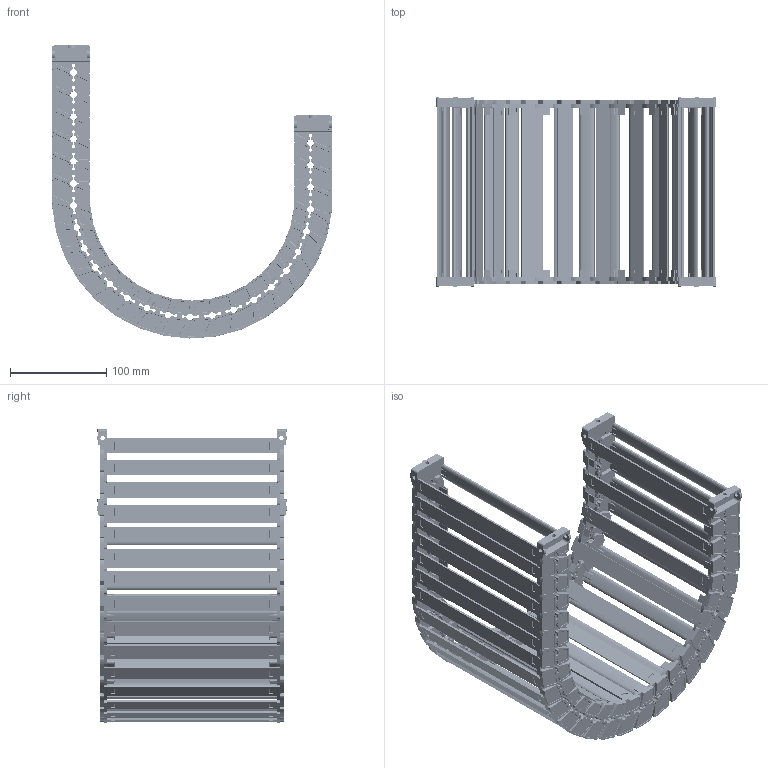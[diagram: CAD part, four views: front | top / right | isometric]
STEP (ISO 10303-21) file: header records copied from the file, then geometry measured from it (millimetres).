
FILE_DESCRIPTION((''),'2;1');
FILE_NAME('JY-32X175-R125_ASM','2026-05-04T14:21:06',('admin'),(''),'CREO PARAMETRIC BY PTC INC, 2021023','CREO PARAMETRIC BY PTC INC, 2021023','');
FILE_SCHEMA(('CONFIG_CONTROL_DESIGN'));
Length unit declared in the file: millimetre
Products named in the file (12): 32XL-L; YP; 32XL-R; ASM0001_ASM; ASM0002_ASM; 32-LTT-A-L; 32-LTT-A-R; 32XL-LTT-A_ASM; 32-LTT-B-L; 32-LTT-B-R; 32XL-LTT-B_ASM; JY-32X175-R125_ASM
Assembly tree (42 placements, depth 3):
  JY-32X175-R125_ASM
    ASM0001_ASM  x12
      32XL-L
      YP
      32XL-R
    ASM0002_ASM  x13
      32XL-L
      YP
      32XL-R
    32XL-LTT-A_ASM
      32-LTT-A-L
      YP  x2
      32-LTT-A-R
    32XL-LTT-B_ASM
      32-LTT-B-L
      YP  x2
      32-LTT-B-R
Bounding box: 290.12 x 197.1 x 304.14 mm (x, y, z)
Volume: 630920 mm3; surface area: 481591.2 mm2
Topology: 95 solids, 95 shells, 13378 faces, 39622 edges, 26559 vertices
Faces by surface type: plane 5842, cylinder 3461, cone 2085, extrusion 1452, bspline 519, torus 14, sphere 5
Entity records: 39496 total; most frequent: CARTESIAN_POINT 11548, ORIENTED_EDGE 6210, DIRECTION 5272, EDGE_CURVE 3105, VERTEX_POINT 2079, AXIS2_PLACEMENT_3D 1792, VECTOR 1688, LINE 1628
